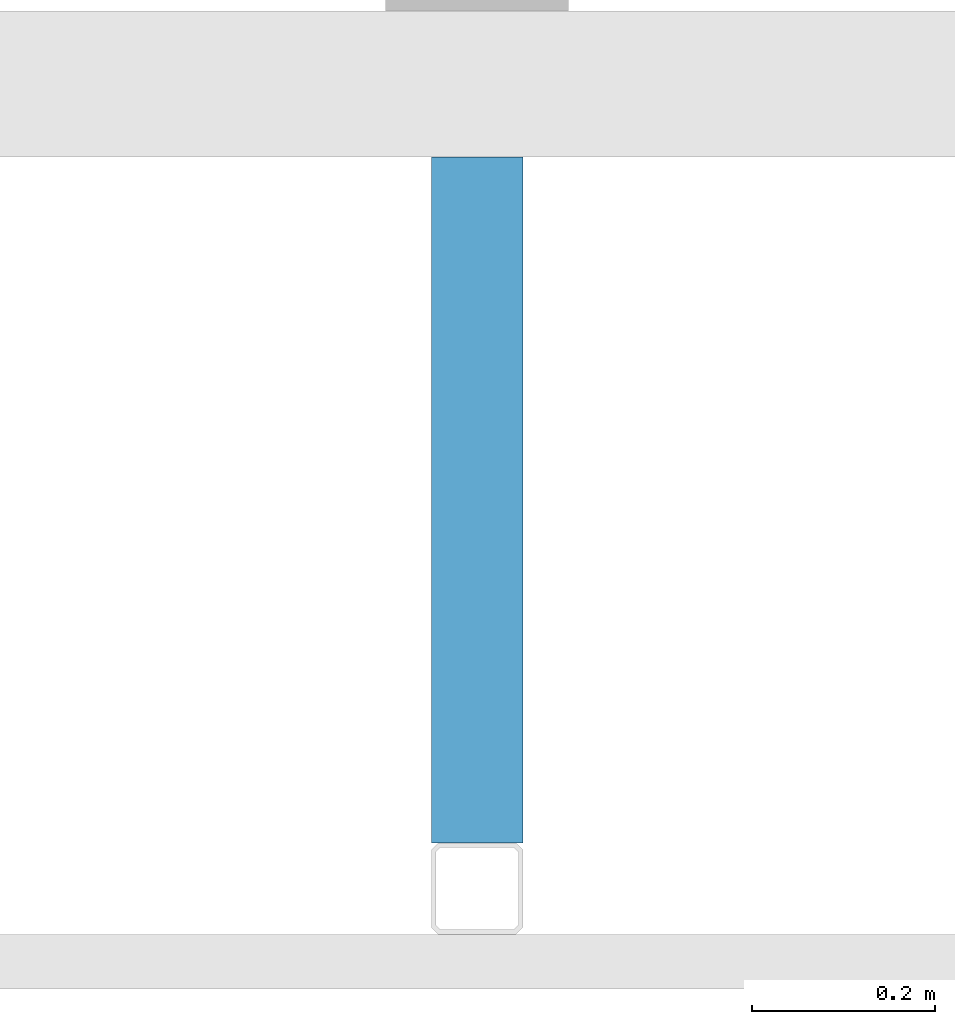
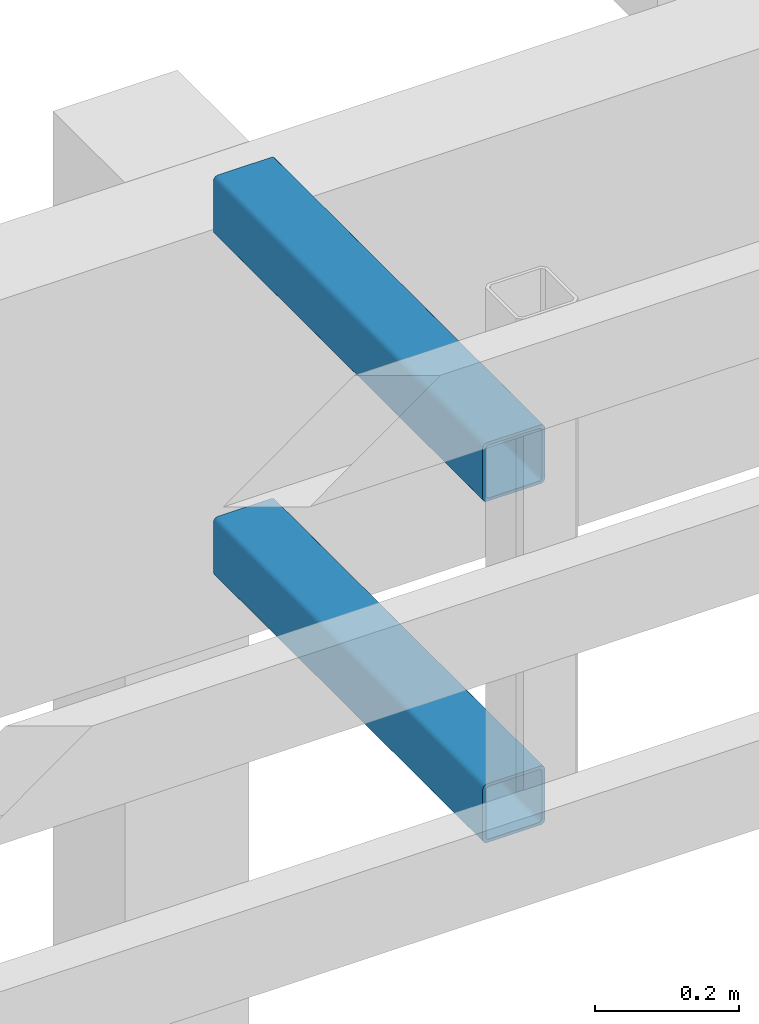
# One storey, part 12 of 42: 2 members.
"""IFC4 building model written with IfcOpenShell, lengths in metres."""

from ifc_helpers import new_model, entity, si_unit, converted_unit, derived_unit, frame, origin, place, context, subcontext, project, spatial, faceted_brep, material, element, save


model = new_model("IFC4")

# Units and contexts
model_context = context("Model", 3, precision=1e-05, world=origin())
plan_context = context("Plan", 2, precision=1e-05, world=origin())
body_context = subcontext(model_context, "Body", "Model", "MODEL_VIEW")
ifc_project = project(units=[si_unit("LENGTHUNIT", "METRE"), si_unit("AREAUNIT", "SQUARE_METRE"), si_unit("VOLUMEUNIT", "CUBIC_METRE"), si_unit("MASSUNIT", "GRAM", prefix="KILO"), converted_unit("PLANEANGLEUNIT", "DEGREE", entity("IfcPlaneAngleMeasure", 0.0174532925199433), si_unit("PLANEANGLEUNIT", "RADIAN"), dimensions=[0, 0, 0, 0, 0, 0, 0]), derived_unit("THERMALTRANSMITTANCEUNIT", [(si_unit("POWERUNIT", "WATT"), 1), (si_unit("THERMODYNAMICTEMPERATUREUNIT", "KELVIN"), -1), (si_unit("LENGTHUNIT", "METRE"), -2)]), derived_unit("VOLUMETRICFLOWRATEUNIT", [(si_unit("LENGTHUNIT", "METRE"), 3), (converted_unit("TIMEUNIT", "hour", entity("IfcTimeMeasure", 3600.0), si_unit("TIMEUNIT", "SECOND"), dimensions=[0, 0, 1, 0, 0, 0, 0]), -1), (si_unit("LENGTHUNIT", "METRE"), -1)])], contexts=[model_context, plan_context])

# Site, building, storey
site_placement = place(None, origin())
site = spatial("IfcSite", under=ifc_project, at=site_placement, Name="Site", CompositionType="ELEMENT")
building_placement = place(site_placement, origin())
building = spatial("IfcBuilding", under=site, at=building_placement, Name="Admin", CompositionType="ELEMENT")
storey_placement = place(building_placement, frame((0.0, 0.0, 6.61)))
storey = spatial("IfcBuildingStorey", under=building, at=storey_placement, Name="02-Etage2", CompositionType="ELEMENT", Elevation=6.61)

# Members
ifc_material_1 = material(Name="S235")
member_1_placement = place(storey_placement, frame((38.1998010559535, 11.1194493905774, 2.86)))
element("IfcMember", 1, at=member_1_placement, inside=storey, material=ifc_material_1, Name="Bandeau R+2", context=body_context, shape_type="Brep", body=[
    faceted_brep([(0.0950000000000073, 0.0, 0.09), (0.0950000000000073, 0.0, 0.01), (0.0950000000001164, 0.74999999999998, 0.01), (0.0950000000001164, 0.74999999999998, 0.09), (0.0949240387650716, 0.0, 0.0908682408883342), (0.0949240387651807, 0.74999999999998, 0.0908682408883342), (0.0946984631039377, 0.0, 0.0917101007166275), (0.0946984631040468, 0.74999999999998, 0.0917101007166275), (0.0943301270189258, 0.0, 0.0925), (0.094330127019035, 0.74999999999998, 0.0925), (0.0938302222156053, 0.0, 0.0932139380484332), (0.0938302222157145, 0.74999999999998, 0.0932139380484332), (0.0932139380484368, 1.81898940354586e-15, 0.0938302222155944), (0.093213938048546, 0.749999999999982, 0.0938302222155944), (0.0925000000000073, 1.81898940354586e-15, 0.0943301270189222), (0.0925000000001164, 0.749999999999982, 0.0943301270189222), (0.0917101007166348, 1.81898940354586e-15, 0.0946984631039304), (0.0917101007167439, 0.749999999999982, 0.0946984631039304), (0.0908682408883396, 1.81898940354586e-15, 0.0949240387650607), (0.0908682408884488, 0.749999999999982, 0.0949240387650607), (0.0900000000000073, 1.81898940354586e-15, 0.095), (0.0900000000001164, 0.749999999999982, 0.095), (0.0100000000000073, 1.2732925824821e-14, 0.095), (0.0100000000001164, 0.749999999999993, 0.095), (0.00913175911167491, 1.2732925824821e-14, 0.0949240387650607), (0.00913175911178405, 0.749999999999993, 0.0949240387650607), (0.00828989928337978, 1.2732925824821e-14, 0.0946984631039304), (0.00828989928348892, 0.749999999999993, 0.0946984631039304), (0.00750000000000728, 1.2732925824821e-14, 0.0943301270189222), (0.00750000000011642, 0.749999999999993, 0.0943301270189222), (0.00678606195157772, 1.2732925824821e-14, 0.0938302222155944), (0.00678606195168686, 0.749999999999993, 0.0938302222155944), (0.00616977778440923, 1.45519152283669e-14, 0.0932139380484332), (0.00616977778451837, 0.749999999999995, 0.0932139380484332), (0.0056698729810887, 1.45519152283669e-14, 0.0925), (0.00566987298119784, 0.749999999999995, 0.0925), (0.00530153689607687, 1.45519152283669e-14, 0.0917101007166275), (0.00530153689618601, 0.749999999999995, 0.0917101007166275), (0.00507596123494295, 1.45519152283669e-14, 0.0908682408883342), (0.00507596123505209, 0.749999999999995, 0.0908682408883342), (0.00500000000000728, 1.45519152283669e-14, 0.09), (0.00500000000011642, 0.749999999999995, 0.09), (0.00500000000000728, 1.45519152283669e-14, 0.01), (0.00500000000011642, 0.749999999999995, 0.01), (0.00507596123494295, 1.45519152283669e-14, 0.00913175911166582), (0.00507596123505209, 0.749999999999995, 0.00913175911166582), (0.00530153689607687, 1.45519152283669e-14, 0.00828989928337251), (0.00530153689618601, 0.749999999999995, 0.00828989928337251), (0.0056698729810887, 1.45519152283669e-14, 0.0075), (0.00566987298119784, 0.749999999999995, 0.0075), (0.00616977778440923, 1.45519152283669e-14, 0.00678606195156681), (0.00616977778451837, 0.749999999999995, 0.00678606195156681), (0.00678606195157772, 1.2732925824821e-14, 0.0061697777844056), (0.00678606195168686, 0.749999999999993, 0.0061697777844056), (0.00750000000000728, 1.2732925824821e-14, 0.00566987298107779), (0.00750000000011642, 0.749999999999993, 0.00566987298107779), (0.00828989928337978, 1.2732925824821e-14, 0.00530153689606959), (0.00828989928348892, 0.749999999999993, 0.00530153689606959), (0.00913175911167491, 1.2732925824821e-14, 0.00507596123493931), (0.00913175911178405, 0.749999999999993, 0.00507596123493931), (0.0100000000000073, 1.2732925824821e-14, 0.005), (0.0100000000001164, 0.749999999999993, 0.005), (0.0900000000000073, 1.81898940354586e-15, 0.005), (0.0900000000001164, 0.749999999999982, 0.005), (0.0908682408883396, 1.81898940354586e-15, 0.00507596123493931), (0.0908682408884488, 0.749999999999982, 0.00507596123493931), (0.0917101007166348, 1.81898940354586e-15, 0.00530153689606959), (0.0917101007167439, 0.749999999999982, 0.00530153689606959), (0.0925000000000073, 1.81898940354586e-15, 0.00566987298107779), (0.0925000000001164, 0.749999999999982, 0.00566987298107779), (0.0932139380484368, 1.81898940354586e-15, 0.0061697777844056), (0.093213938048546, 0.749999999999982, 0.0061697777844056), (0.0938302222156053, 0.0, 0.00678606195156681), (0.0938302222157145, 0.74999999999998, 0.00678606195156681), (0.0943301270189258, 0.0, 0.0075), (0.094330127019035, 0.74999999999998, 0.0075), (0.0946984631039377, 0.0, 0.00828989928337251), (0.0946984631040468, 0.74999999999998, 0.00828989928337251), (0.0949240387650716, 0.0, 0.00913175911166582), (0.0949240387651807, 0.74999999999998, 0.00913175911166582), (0.00750000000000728, 1.2732925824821e-14, 0.1), (0.00619763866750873, 1.45519152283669e-14, 0.099886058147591), (0.00619763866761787, 0.749999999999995, 0.099886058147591), (0.00750000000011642, 0.749999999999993, 0.1), (0.0925000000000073, 1.81898940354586e-15, 0.1), (0.0925000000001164, 0.749999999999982, 0.1), (0.0938023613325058, 0.0, 0.099886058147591), (0.093802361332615, 0.74999999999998, 0.099886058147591), (0.0950651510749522, 0.0, 0.0995476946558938), (0.0950651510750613, 0.74999999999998, 0.0995476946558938), (0.0962500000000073, 0.0, 0.0989951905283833), (0.0962500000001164, 0.74999999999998, 0.0989951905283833), (0.0973209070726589, 0.0, 0.0982453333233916), (0.097320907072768, 0.74999999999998, 0.0982453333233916), (0.0982453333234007, 0.0, 0.0973209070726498), (0.0982453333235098, 0.74999999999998, 0.0973209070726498), (0.0989951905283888, 0.0, 0.09625), (0.0989951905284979, 0.74999999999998, 0.09625), (0.0995476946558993, 0.0, 0.0950651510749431), (0.0995476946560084, 0.74999999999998, 0.0950651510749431), (0.0998860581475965, 0.0, 0.0938023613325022), (0.0998860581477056, 0.74999999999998, 0.0938023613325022), (0.100000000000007, 0.0, 0.0925), (0.100000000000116, 0.74999999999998, 0.0925), (0.0998860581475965, 0.0, 0.00619763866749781), (0.100000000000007, 0.0, 0.0075), (0.100000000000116, 0.74999999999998, 0.0075), (0.0998860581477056, 0.74999999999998, 0.00619763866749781), (0.0995476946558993, 0.0, 0.00493484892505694), (0.0995476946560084, 0.74999999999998, 0.00493484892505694), (0.0989951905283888, 0.0, 0.00375), (0.0989951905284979, 0.74999999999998, 0.00375), (0.0982453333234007, 0.0, 0.00267909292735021), (0.0982453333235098, 0.74999999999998, 0.00267909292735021), (0.0973209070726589, 0.0, 0.00175466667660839), (0.097320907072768, 0.74999999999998, 0.00175466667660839), (0.0962500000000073, 0.0, 0.00100480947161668), (0.0962500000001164, 0.74999999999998, 0.00100480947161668), (0.0950651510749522, 0.0, 0.000452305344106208), (0.0950651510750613, 0.74999999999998, 0.000452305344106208), (0.0938023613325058, 0.0, 0.000113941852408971), (0.093802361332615, 0.74999999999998, 0.000113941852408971), (0.0925000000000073, 1.81898940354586e-15, 0.0), (0.0925000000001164, 0.749999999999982, 0.0), (0.00750000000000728, 1.2732925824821e-14, 0.0), (0.00750000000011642, 0.749999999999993, 0.0), (0.00619763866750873, 1.45519152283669e-14, 0.000113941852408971), (0.00619763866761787, 0.749999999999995, 0.000113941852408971), (0.0049348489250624, 1.45519152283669e-14, 0.000452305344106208), (0.00493484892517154, 0.749999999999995, 0.000452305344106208), (0.00375000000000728, 1.45519152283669e-14, 0.00100480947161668), (0.00375000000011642, 0.749999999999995, 0.00100480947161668), (0.00267909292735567, 1.45519152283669e-14, 0.00175466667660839), (0.00267909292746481, 0.749999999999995, 0.00175466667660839), (0.00175466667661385, 1.45519152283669e-14, 0.00267909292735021), (0.00175466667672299, 0.749999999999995, 0.00267909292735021), (0.00100480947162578, 1.45519152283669e-14, 0.00375), (0.00100480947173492, 0.749999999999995, 0.00375), (0.000452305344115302, 1.45519152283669e-14, 0.00493484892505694), (0.000452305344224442, 0.749999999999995, 0.00493484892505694), (0.000113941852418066, 1.45519152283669e-14, 0.00619763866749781), (0.000113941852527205, 0.749999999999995, 0.00619763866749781), (7.27595761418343e-15, 0.0, 0.0075), (1.16415321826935e-13, 0.749999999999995, 0.0075), (0.000113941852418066, 1.45519152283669e-14, 0.0938023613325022), (7.27595761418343e-15, 0.0, 0.0925), (1.16415321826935e-13, 0.749999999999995, 0.0925), (0.000113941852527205, 0.749999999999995, 0.0938023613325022), (0.000452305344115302, 1.45519152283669e-14, 0.0950651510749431), (0.000452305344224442, 0.749999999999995, 0.0950651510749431), (0.00100480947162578, 1.45519152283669e-14, 0.09625), (0.00100480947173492, 0.749999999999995, 0.09625), (0.00175466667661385, 1.45519152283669e-14, 0.0973209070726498), (0.00175466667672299, 0.749999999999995, 0.0973209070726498), (0.00267909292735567, 1.45519152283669e-14, 0.0982453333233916), (0.00267909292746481, 0.749999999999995, 0.0982453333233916), (0.00375000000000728, 1.45519152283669e-14, 0.0989951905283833), (0.00375000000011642, 0.749999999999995, 0.0989951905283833), (0.0049348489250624, 1.45519152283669e-14, 0.0995476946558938), (0.00493484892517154, 0.749999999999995, 0.0995476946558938)], [[[0, 1, 2, 3]], [[4, 0, 3, 5]], [[6, 4, 5, 7]], [[8, 6, 7, 9]], [[10, 8, 9, 11]], [[12, 10, 11, 13]], [[14, 12, 13, 15]], [[16, 14, 15, 17]], [[18, 16, 17, 19]], [[20, 18, 19, 21]], [[22, 20, 21, 23]], [[24, 22, 23, 25]], [[26, 24, 25, 27]], [[28, 26, 27, 29]], [[30, 28, 29, 31]], [[32, 30, 31, 33]], [[34, 32, 33, 35]], [[36, 34, 35, 37]], [[38, 36, 37, 39]], [[40, 38, 39, 41]], [[42, 40, 41, 43]], [[44, 42, 43, 45]], [[46, 44, 45, 47]], [[48, 46, 47, 49]], [[50, 48, 49, 51]], [[52, 50, 51, 53]], [[54, 52, 53, 55]], [[56, 54, 55, 57]], [[58, 56, 57, 59]], [[60, 58, 59, 61]], [[62, 60, 61, 63]], [[64, 62, 63, 65]], [[66, 64, 65, 67]], [[68, 66, 67, 69]], [[70, 68, 69, 71]], [[72, 70, 71, 73]], [[74, 72, 73, 75]], [[76, 74, 75, 77]], [[78, 76, 77, 79]], [[1, 78, 79, 2]], [[80, 81, 82, 83]], [[84, 80, 83, 85]], [[86, 84, 85, 87]], [[88, 86, 87, 89]], [[90, 88, 89, 91]], [[92, 90, 91, 93]], [[94, 92, 93, 95]], [[96, 94, 95, 97]], [[98, 96, 97, 99]], [[100, 98, 99, 101]], [[102, 100, 101, 103]], [[104, 105, 106, 107]], [[108, 104, 107, 109]], [[110, 108, 109, 111]], [[112, 110, 111, 113]], [[114, 112, 113, 115]], [[116, 114, 115, 117]], [[118, 116, 117, 119]], [[120, 118, 119, 121]], [[122, 120, 121, 123]], [[124, 122, 123, 125]], [[126, 124, 125, 127]], [[128, 126, 127, 129]], [[130, 128, 129, 131]], [[132, 130, 131, 133]], [[134, 132, 133, 135]], [[136, 134, 135, 137]], [[138, 136, 137, 139]], [[140, 138, 139, 141]], [[142, 140, 141, 143]], [[144, 145, 146, 147]], [[148, 144, 147, 149]], [[150, 148, 149, 151]], [[152, 150, 151, 153]], [[154, 152, 153, 155]], [[156, 154, 155, 157]], [[158, 156, 157, 159]], [[81, 158, 159, 82]], [[146, 143, 141, 139, 137, 135, 133, 131, 129, 127, 125, 123, 121, 119, 117, 115, 113, 111, 109, 107, 106, 103, 101, 99, 97, 95, 93, 91, 89, 87, 85, 83, 82, 159, 157, 155, 153, 151, 149, 147], [2, 79, 77, 75, 73, 71, 69, 67, 65, 63, 61, 59, 57, 55, 53, 51, 49, 47, 45, 43, 41, 39, 37, 35, 33, 31, 29, 27, 25, 23, 21, 19, 17, 15, 13, 11, 9, 7, 5, 3]], [[103, 106, 105, 102]], [[102, 105, 104, 108, 110, 112, 114, 116, 118, 120, 122, 124, 126, 128, 130, 132, 134, 136, 138, 140, 142, 145, 144, 148, 150, 152, 154, 156, 158, 81, 80, 84, 86, 88, 90, 92, 94, 96, 98, 100], [1, 0, 4, 6, 8, 10, 12, 14, 16, 18, 20, 22, 24, 26, 28, 30, 32, 34, 36, 38, 40, 42, 44, 46, 48, 50, 52, 54, 56, 58, 60, 62, 64, 66, 68, 70, 72, 74, 76, 78]], [[145, 142, 143, 146]]], orient=[[False], [False], [False], [False], [False], [False], [False], [False], [False], [False], [False], [False], [False], [False], [False], [False], [False], [False], [False], [False], [False], [False], [False], [False], [False], [False], [False], [False], [False], [False], [False], [False], [False], [False], [False], [False], [False], [False], [False], [False], [False], [False], [False], [False], [False], [False], [False], [False], [False], [False], [False], [False], [False], [False], [False], [False], [False], [False], [False], [False], [False], [False], [False], [False], [False], [False], [False], [False], [False], [False], [False], [False], [False], [False], [False], [False], [False], [False], [False, False], [False], [False, False], [False]]),
])
ifc_material_2 = material(Name="S235")
member_2_placement = place(storey_placement, frame((38.1998010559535, 11.1194493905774, 2.28)))
element("IfcMember", 2, at=member_2_placement, inside=storey, material=ifc_material_2, Name="Bandeau R+2", context=body_context, shape_type="Brep", body=[
    faceted_brep([(0.0950000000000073, 0.0, 0.09), (0.0950000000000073, 0.0, 0.01), (0.0950000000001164, 0.749999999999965, 0.01), (0.0950000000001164, 0.749999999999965, 0.09), (0.0949240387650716, 0.0, 0.0908682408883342), (0.0949240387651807, 0.749999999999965, 0.0908682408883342), (0.0946984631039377, 0.0, 0.0917101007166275), (0.0946984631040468, 0.749999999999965, 0.0917101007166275), (0.0943301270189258, 0.0, 0.0925), (0.094330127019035, 0.749999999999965, 0.0925), (0.0938302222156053, 0.0, 0.0932139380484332), (0.0938302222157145, 0.749999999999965, 0.0932139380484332), (0.0932139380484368, 1.81898940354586e-15, 0.0938302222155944), (0.093213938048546, 0.749999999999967, 0.0938302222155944), (0.0925000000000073, 1.81898940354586e-15, 0.0943301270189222), (0.0925000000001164, 0.749999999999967, 0.0943301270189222), (0.0917101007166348, 1.81898940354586e-15, 0.0946984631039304), (0.0917101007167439, 0.749999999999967, 0.0946984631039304), (0.0908682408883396, 1.81898940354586e-15, 0.0949240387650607), (0.0908682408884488, 0.749999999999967, 0.0949240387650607), (0.0900000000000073, 1.81898940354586e-15, 0.095), (0.0900000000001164, 0.749999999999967, 0.095), (0.0100000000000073, 1.2732925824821e-14, 0.095), (0.0100000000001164, 0.749999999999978, 0.095), (0.00913175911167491, 1.2732925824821e-14, 0.0949240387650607), (0.00913175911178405, 0.749999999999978, 0.0949240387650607), (0.00828989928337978, 1.2732925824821e-14, 0.0946984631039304), (0.00828989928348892, 0.749999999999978, 0.0946984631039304), (0.00750000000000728, 1.2732925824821e-14, 0.0943301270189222), (0.00750000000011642, 0.749999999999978, 0.0943301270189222), (0.00678606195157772, 1.2732925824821e-14, 0.0938302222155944), (0.00678606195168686, 0.749999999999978, 0.0938302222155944), (0.00616977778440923, 1.45519152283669e-14, 0.0932139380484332), (0.00616977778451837, 0.74999999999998, 0.0932139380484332), (0.0056698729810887, 1.45519152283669e-14, 0.0925), (0.00566987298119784, 0.74999999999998, 0.0925), (0.00530153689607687, 1.45519152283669e-14, 0.0917101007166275), (0.00530153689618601, 0.74999999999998, 0.0917101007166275), (0.00507596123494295, 1.45519152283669e-14, 0.0908682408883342), (0.00507596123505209, 0.74999999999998, 0.0908682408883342), (0.00500000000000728, 1.45519152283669e-14, 0.09), (0.00500000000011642, 0.74999999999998, 0.09), (0.00500000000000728, 1.45519152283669e-14, 0.01), (0.00500000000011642, 0.74999999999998, 0.01), (0.00507596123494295, 1.45519152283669e-14, 0.00913175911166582), (0.00507596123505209, 0.74999999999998, 0.00913175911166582), (0.00530153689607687, 1.45519152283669e-14, 0.00828989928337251), (0.00530153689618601, 0.74999999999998, 0.00828989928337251), (0.0056698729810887, 1.45519152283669e-14, 0.0075), (0.00566987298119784, 0.74999999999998, 0.0075), (0.00616977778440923, 1.45519152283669e-14, 0.00678606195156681), (0.00616977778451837, 0.74999999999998, 0.00678606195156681), (0.00678606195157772, 1.2732925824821e-14, 0.0061697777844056), (0.00678606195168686, 0.749999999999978, 0.0061697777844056), (0.00750000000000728, 1.2732925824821e-14, 0.00566987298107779), (0.00750000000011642, 0.749999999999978, 0.00566987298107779), (0.00828989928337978, 1.2732925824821e-14, 0.00530153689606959), (0.00828989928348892, 0.749999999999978, 0.00530153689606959), (0.00913175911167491, 1.2732925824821e-14, 0.00507596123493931), (0.00913175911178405, 0.749999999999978, 0.00507596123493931), (0.0100000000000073, 1.2732925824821e-14, 0.005), (0.0100000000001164, 0.749999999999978, 0.005), (0.0900000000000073, 1.81898940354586e-15, 0.005), (0.0900000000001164, 0.749999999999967, 0.005), (0.0908682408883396, 1.81898940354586e-15, 0.00507596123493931), (0.0908682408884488, 0.749999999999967, 0.00507596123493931), (0.0917101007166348, 1.81898940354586e-15, 0.00530153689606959), (0.0917101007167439, 0.749999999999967, 0.00530153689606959), (0.0925000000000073, 1.81898940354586e-15, 0.00566987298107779), (0.0925000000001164, 0.749999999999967, 0.00566987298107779), (0.0932139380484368, 1.81898940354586e-15, 0.0061697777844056), (0.093213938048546, 0.749999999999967, 0.0061697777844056), (0.0938302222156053, 0.0, 0.00678606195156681), (0.0938302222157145, 0.749999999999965, 0.00678606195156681), (0.0943301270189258, 0.0, 0.0075), (0.094330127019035, 0.749999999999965, 0.0075), (0.0946984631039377, 0.0, 0.00828989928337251), (0.0946984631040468, 0.749999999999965, 0.00828989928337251), (0.0949240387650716, 0.0, 0.00913175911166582), (0.0949240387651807, 0.749999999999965, 0.00913175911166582), (0.00750000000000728, 1.2732925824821e-14, 0.1), (0.00619763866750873, 1.45519152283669e-14, 0.099886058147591), (0.00619763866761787, 0.74999999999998, 0.099886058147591), (0.00750000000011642, 0.749999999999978, 0.1), (0.0925000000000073, 1.81898940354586e-15, 0.1), (0.0925000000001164, 0.749999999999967, 0.1), (0.0938023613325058, 0.0, 0.099886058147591), (0.093802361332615, 0.749999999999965, 0.099886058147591), (0.0950651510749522, 0.0, 0.0995476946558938), (0.0950651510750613, 0.749999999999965, 0.0995476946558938), (0.0962500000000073, 0.0, 0.0989951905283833), (0.0962500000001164, 0.749999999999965, 0.0989951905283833), (0.0973209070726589, 0.0, 0.0982453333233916), (0.097320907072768, 0.749999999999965, 0.0982453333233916), (0.0982453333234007, 0.0, 0.0973209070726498), (0.0982453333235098, 0.749999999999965, 0.0973209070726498), (0.0989951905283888, 0.0, 0.09625), (0.0989951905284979, 0.749999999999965, 0.09625), (0.0995476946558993, 0.0, 0.0950651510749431), (0.0995476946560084, 0.749999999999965, 0.0950651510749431), (0.0998860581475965, 0.0, 0.0938023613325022), (0.0998860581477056, 0.749999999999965, 0.0938023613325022), (0.100000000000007, 0.0, 0.0925), (0.100000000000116, 0.749999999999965, 0.0925), (0.0998860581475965, 0.0, 0.00619763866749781), (0.100000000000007, 0.0, 0.0075), (0.100000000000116, 0.749999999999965, 0.0075), (0.0998860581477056, 0.749999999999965, 0.00619763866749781), (0.0995476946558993, 0.0, 0.00493484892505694), (0.0995476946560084, 0.749999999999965, 0.00493484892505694), (0.0989951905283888, 0.0, 0.00375), (0.0989951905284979, 0.749999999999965, 0.00375), (0.0982453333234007, 0.0, 0.00267909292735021), (0.0982453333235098, 0.749999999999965, 0.00267909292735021), (0.0973209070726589, 0.0, 0.00175466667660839), (0.097320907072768, 0.749999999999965, 0.00175466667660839), (0.0962500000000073, 0.0, 0.00100480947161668), (0.0962500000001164, 0.749999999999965, 0.00100480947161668), (0.0950651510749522, 0.0, 0.000452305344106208), (0.0950651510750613, 0.749999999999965, 0.000452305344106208), (0.0938023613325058, 0.0, 0.000113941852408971), (0.093802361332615, 0.749999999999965, 0.000113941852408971), (0.0925000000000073, 1.81898940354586e-15, 0.0), (0.0925000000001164, 0.749999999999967, 0.0), (0.00750000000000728, 1.2732925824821e-14, 0.0), (0.00750000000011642, 0.749999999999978, 0.0), (0.00619763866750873, 1.45519152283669e-14, 0.000113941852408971), (0.00619763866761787, 0.74999999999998, 0.000113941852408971), (0.0049348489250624, 1.45519152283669e-14, 0.000452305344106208), (0.00493484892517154, 0.74999999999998, 0.000452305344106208), (0.00375000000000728, 1.45519152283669e-14, 0.00100480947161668), (0.00375000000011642, 0.74999999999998, 0.00100480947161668), (0.00267909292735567, 1.45519152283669e-14, 0.00175466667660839), (0.00267909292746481, 0.74999999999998, 0.00175466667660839), (0.00175466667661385, 1.45519152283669e-14, 0.00267909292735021), (0.00175466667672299, 0.74999999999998, 0.00267909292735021), (0.00100480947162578, 1.45519152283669e-14, 0.00375), (0.00100480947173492, 0.74999999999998, 0.00375), (0.000452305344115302, 1.45519152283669e-14, 0.00493484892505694), (0.000452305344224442, 0.74999999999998, 0.00493484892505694), (0.000113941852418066, 1.45519152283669e-14, 0.00619763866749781), (0.000113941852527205, 0.74999999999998, 0.00619763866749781), (7.27595761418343e-15, 0.0, 0.0075), (1.16415321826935e-13, 0.74999999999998, 0.0075), (0.000113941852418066, 1.45519152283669e-14, 0.0938023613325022), (7.27595761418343e-15, 0.0, 0.0925), (1.16415321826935e-13, 0.74999999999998, 0.0925), (0.000113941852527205, 0.74999999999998, 0.0938023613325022), (0.000452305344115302, 1.45519152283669e-14, 0.0950651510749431), (0.000452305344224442, 0.74999999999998, 0.0950651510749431), (0.00100480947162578, 1.45519152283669e-14, 0.09625), (0.00100480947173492, 0.74999999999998, 0.09625), (0.00175466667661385, 1.45519152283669e-14, 0.0973209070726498), (0.00175466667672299, 0.74999999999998, 0.0973209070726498), (0.00267909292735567, 1.45519152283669e-14, 0.0982453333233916), (0.00267909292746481, 0.74999999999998, 0.0982453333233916), (0.00375000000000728, 1.45519152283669e-14, 0.0989951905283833), (0.00375000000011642, 0.74999999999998, 0.0989951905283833), (0.0049348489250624, 1.45519152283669e-14, 0.0995476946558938), (0.00493484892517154, 0.74999999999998, 0.0995476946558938)], [[[0, 1, 2, 3]], [[4, 0, 3, 5]], [[6, 4, 5, 7]], [[8, 6, 7, 9]], [[10, 8, 9, 11]], [[12, 10, 11, 13]], [[14, 12, 13, 15]], [[16, 14, 15, 17]], [[18, 16, 17, 19]], [[20, 18, 19, 21]], [[22, 20, 21, 23]], [[24, 22, 23, 25]], [[26, 24, 25, 27]], [[28, 26, 27, 29]], [[30, 28, 29, 31]], [[32, 30, 31, 33]], [[34, 32, 33, 35]], [[36, 34, 35, 37]], [[38, 36, 37, 39]], [[40, 38, 39, 41]], [[42, 40, 41, 43]], [[44, 42, 43, 45]], [[46, 44, 45, 47]], [[48, 46, 47, 49]], [[50, 48, 49, 51]], [[52, 50, 51, 53]], [[54, 52, 53, 55]], [[56, 54, 55, 57]], [[58, 56, 57, 59]], [[60, 58, 59, 61]], [[62, 60, 61, 63]], [[64, 62, 63, 65]], [[66, 64, 65, 67]], [[68, 66, 67, 69]], [[70, 68, 69, 71]], [[72, 70, 71, 73]], [[74, 72, 73, 75]], [[76, 74, 75, 77]], [[78, 76, 77, 79]], [[1, 78, 79, 2]], [[80, 81, 82, 83]], [[84, 80, 83, 85]], [[86, 84, 85, 87]], [[88, 86, 87, 89]], [[90, 88, 89, 91]], [[92, 90, 91, 93]], [[94, 92, 93, 95]], [[96, 94, 95, 97]], [[98, 96, 97, 99]], [[100, 98, 99, 101]], [[102, 100, 101, 103]], [[104, 105, 106, 107]], [[108, 104, 107, 109]], [[110, 108, 109, 111]], [[112, 110, 111, 113]], [[114, 112, 113, 115]], [[116, 114, 115, 117]], [[118, 116, 117, 119]], [[120, 118, 119, 121]], [[122, 120, 121, 123]], [[124, 122, 123, 125]], [[126, 124, 125, 127]], [[128, 126, 127, 129]], [[130, 128, 129, 131]], [[132, 130, 131, 133]], [[134, 132, 133, 135]], [[136, 134, 135, 137]], [[138, 136, 137, 139]], [[140, 138, 139, 141]], [[142, 140, 141, 143]], [[144, 145, 146, 147]], [[148, 144, 147, 149]], [[150, 148, 149, 151]], [[152, 150, 151, 153]], [[154, 152, 153, 155]], [[156, 154, 155, 157]], [[158, 156, 157, 159]], [[81, 158, 159, 82]], [[146, 143, 141, 139, 137, 135, 133, 131, 129, 127, 125, 123, 121, 119, 117, 115, 113, 111, 109, 107, 106, 103, 101, 99, 97, 95, 93, 91, 89, 87, 85, 83, 82, 159, 157, 155, 153, 151, 149, 147], [2, 79, 77, 75, 73, 71, 69, 67, 65, 63, 61, 59, 57, 55, 53, 51, 49, 47, 45, 43, 41, 39, 37, 35, 33, 31, 29, 27, 25, 23, 21, 19, 17, 15, 13, 11, 9, 7, 5, 3]], [[103, 106, 105, 102]], [[102, 105, 104, 108, 110, 112, 114, 116, 118, 120, 122, 124, 126, 128, 130, 132, 134, 136, 138, 140, 142, 145, 144, 148, 150, 152, 154, 156, 158, 81, 80, 84, 86, 88, 90, 92, 94, 96, 98, 100], [1, 0, 4, 6, 8, 10, 12, 14, 16, 18, 20, 22, 24, 26, 28, 30, 32, 34, 36, 38, 40, 42, 44, 46, 48, 50, 52, 54, 56, 58, 60, 62, 64, 66, 68, 70, 72, 74, 76, 78]], [[145, 142, 143, 146]]], orient=[[False], [False], [False], [False], [False], [False], [False], [False], [False], [False], [False], [False], [False], [False], [False], [False], [False], [False], [False], [False], [False], [False], [False], [False], [False], [False], [False], [False], [False], [False], [False], [False], [False], [False], [False], [False], [False], [False], [False], [False], [False], [False], [False], [False], [False], [False], [False], [False], [False], [False], [False], [False], [False], [False], [False], [False], [False], [False], [False], [False], [False], [False], [False], [False], [False], [False], [False], [False], [False], [False], [False], [False], [False], [False], [False], [False], [False], [False], [False, False], [False], [False, False], [False]]),
])

save(model, "model.ifc")
